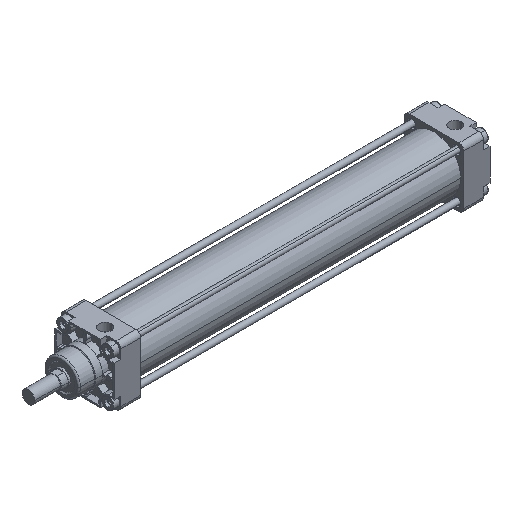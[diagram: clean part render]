
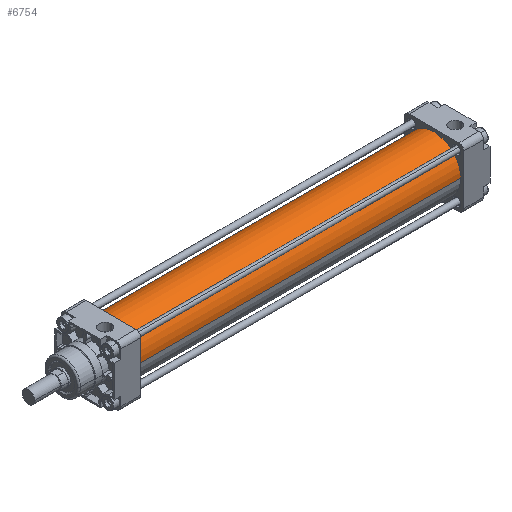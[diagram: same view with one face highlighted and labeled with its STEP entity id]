
A CAD part, isometric view. The second image highlights one B-rep face of the part: STEP entity #6754.
In plain terms, the highlighted cylindrical face has radius 33.5 mm (diameter 67 mm), a partial arc.
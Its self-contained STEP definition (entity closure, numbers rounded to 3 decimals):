
#6391=CARTESIAN_POINT('Vertex',(405.,-33.5,0.)) ;
#6393=CARTESIAN_POINT('Vertex',(405.,33.5,0.)) ;
#6396=CARTESIAN_POINT('Axis2P3D Location',(405.,0.,0.)) ;
#6724=CARTESIAN_POINT('Axis2P3D Location',(202.5,0.,0.)) ;
#6729=CARTESIAN_POINT('Line Origine',(202.5,33.5,0.)) ;
#6733=CARTESIAN_POINT('Vertex',(0.,33.5,0.)) ;
#6736=CARTESIAN_POINT('Axis2P3D Location',(0.,0.,0.)) ;
#6740=CARTESIAN_POINT('Vertex',(0.,-33.5,0.)) ;
#6743=CARTESIAN_POINT('Line Origine',(202.5,-33.5,0.)) ;
#6397=DIRECTION('Axis2P3D Direction',(1.,0.,0.)) ;
#6725=DIRECTION('Axis2P3D Direction',(1.,0.,0.)) ;
#6726=DIRECTION('Axis2P3D XDirection',(0.,1.,0.)) ;
#6730=DIRECTION('Vector Direction',(1.,0.,0.)) ;
#6737=DIRECTION('Axis2P3D Direction',(1.,0.,0.)) ;
#6744=DIRECTION('Vector Direction',(1.,0.,0.)) ;
#6398=AXIS2_PLACEMENT_3D('Circle Axis2P3D',#6396,#6397,$) ;
#6727=AXIS2_PLACEMENT_3D('Cylinder Axis2P3D',#6724,#6725,#6726) ;
#6738=AXIS2_PLACEMENT_3D('Circle Axis2P3D',#6736,#6737,$) ;
#6749=ORIENTED_EDGE('',*,*,#6735,.F.) ;
#6750=ORIENTED_EDGE('',*,*,#6742,.T.) ;
#6751=ORIENTED_EDGE('',*,*,#6747,.T.) ;
#6752=ORIENTED_EDGE('',*,*,#6400,.F.) ;
#6731=VECTOR('Line Direction',#6730,1.) ;
#6745=VECTOR('Line Direction',#6744,1.) ;
#6754=ADVANCED_FACE('PartBody',(#6753),#6728,.T.) ;
#6399=CIRCLE('generated circle',#6398,33.5) ;
#6739=CIRCLE('generated circle',#6738,33.5) ;
#6728=CYLINDRICAL_SURFACE('generated cylinder',#6727,33.5) ;
#6400=EDGE_CURVE('',#6394,#6392,#6399,.T.) ;
#6735=EDGE_CURVE('',#6734,#6394,#6732,.T.) ;
#6742=EDGE_CURVE('',#6734,#6741,#6739,.T.) ;
#6747=EDGE_CURVE('',#6741,#6392,#6746,.T.) ;
#6748=EDGE_LOOP('',(#6749,#6750,#6751,#6752)) ;
#6753=FACE_OUTER_BOUND('',#6748,.T.) ;
#6732=LINE('Line',#6729,#6731) ;
#6746=LINE('Line',#6743,#6745) ;
#6392=VERTEX_POINT('',#6391) ;
#6394=VERTEX_POINT('',#6393) ;
#6734=VERTEX_POINT('',#6733) ;
#6741=VERTEX_POINT('',#6740) ;
